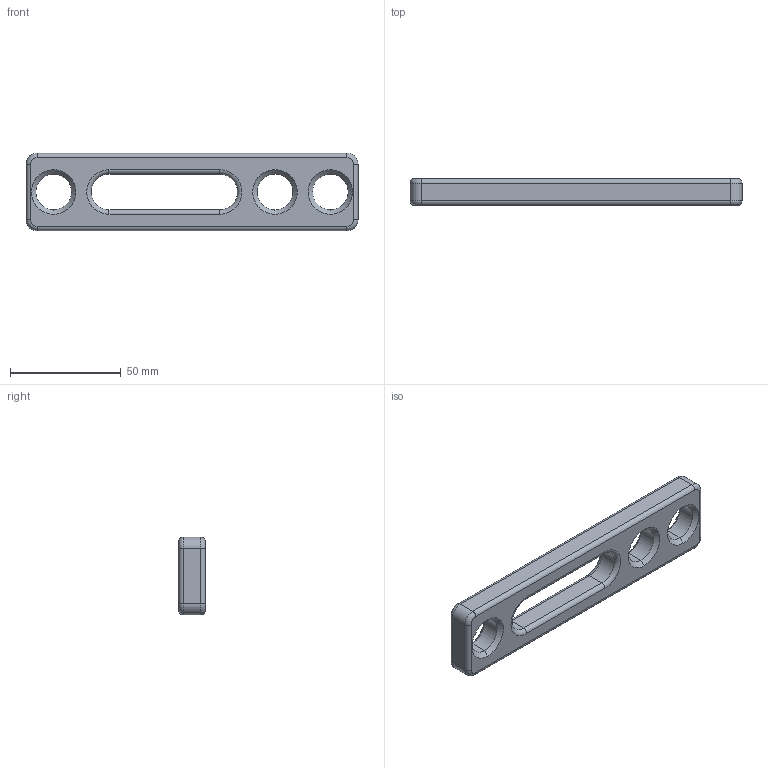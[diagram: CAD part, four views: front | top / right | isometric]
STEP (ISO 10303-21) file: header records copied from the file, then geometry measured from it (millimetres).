
FILE_DESCRIPTION (( 'STEP AP203' ), '1' );
FILE_NAME ('160422_150L.step', '2014-08-11T15:59:39', ( 'User' ), ( '' ), 'SwSTEP 2.0', 'SolidWorks 2014', '' );
FILE_SCHEMA (( 'CONFIG_CONTROL_DESIGN' ));
Length unit declared in the file: millimetre
Products named in the file (1): 160422_150L
Bounding box: 150 x 12 x 35 mm (x, y, z)
Volume: 41774.3 mm3; surface area: 13979.9 mm2
Topology: 1 solids, 1 shells, 56 faces, 126 edges, 72 vertices
Faces by surface type: cylinder 24, cone 12, torus 12, plane 8
Entity records: 1647 total; most frequent: DIRECTION 312, CARTESIAN_POINT 255, ORIENTED_EDGE 252, AXIS2_PLACEMENT_3D 129, EDGE_CURVE 126, VERTEX_POINT 72, CIRCLE 72, EDGE_LOOP 64
